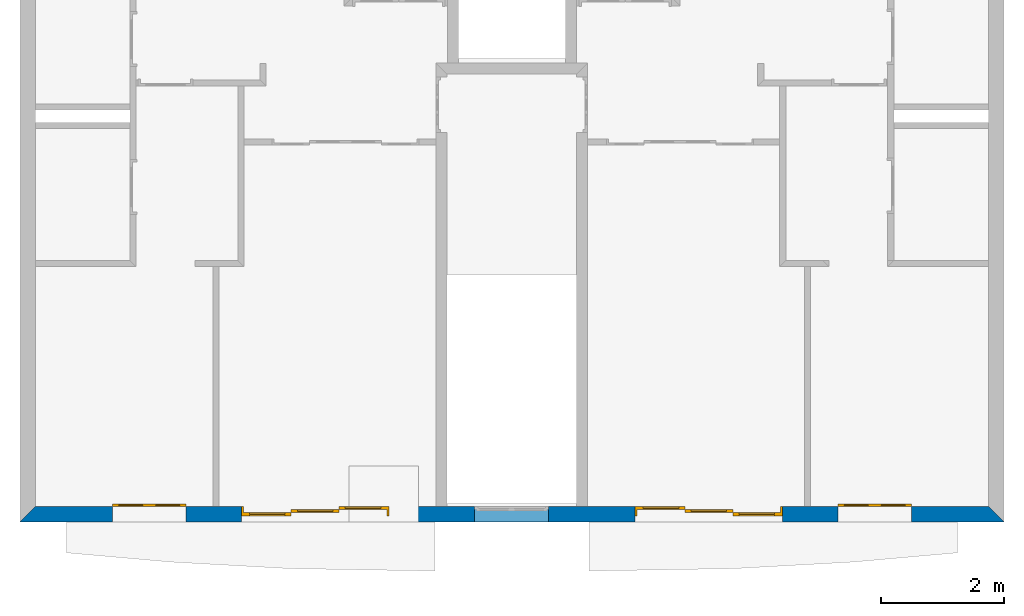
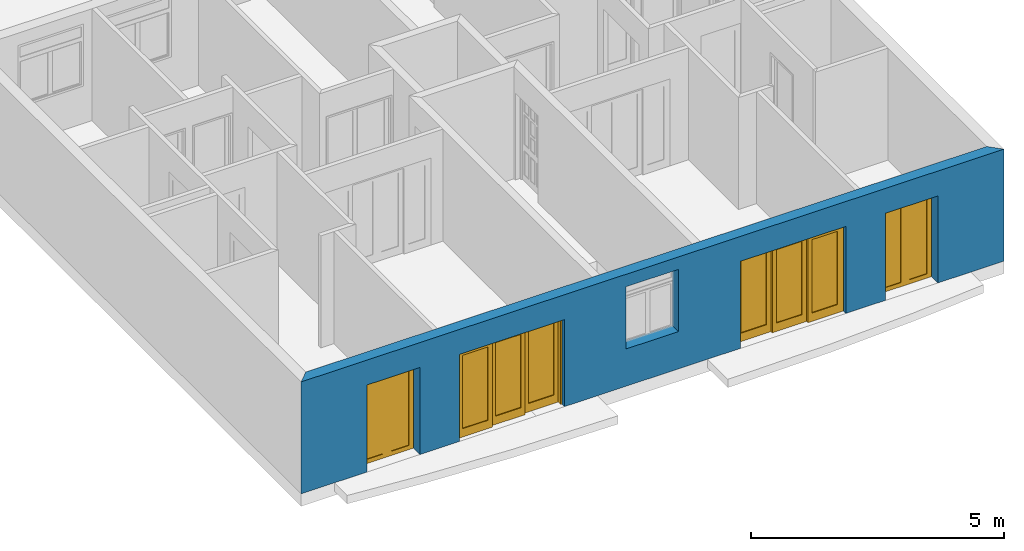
# One storey, part 2 of 12: 4 doors, 1 wall, 5 openings.
"""IFC2X3 building model written with IfcOpenShell, lengths in metres."""

from ifc_helpers import new_model, entity, si_unit, converted_unit, direction, frame, frame_2d, origin_with_axes, place, context, project, spatial, polyline, rectangle, outline, extrude, faceted_brep, source, transform, mapped, material, layer, layer_set, layer_usage, type_object, element, fill, save


model = new_model("IFC2X3")

# Units and contexts
context_of_model = context(None, 3, precision=1e-05, world=origin_with_axes(), true_north=direction((6.123234e-17, 1.0)))
plan_context = context("Plan", 3, precision=1e-05, world=origin_with_axes(), true_north=direction((6.123234e-17, 1.0)))
model_context = context("Model", 3, precision=1e-05, world=origin_with_axes(), true_north=direction((6.123234e-17, 1.0)))
ifc_project = project(units=[si_unit("LENGTHUNIT", "METRE"), si_unit("AREAUNIT", "SQUARE_METRE"), si_unit("VOLUMEUNIT", "CUBIC_METRE"), converted_unit("PLANEANGLEUNIT", "DEGREE", entity("IfcPlaneAngleMeasure", 0.017453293), si_unit("PLANEANGLEUNIT", "RADIAN"), dimensions=[0, 0, 0, 0, 0, 0, 0]), si_unit("SOLIDANGLEUNIT", "STERADIAN"), si_unit("MASSUNIT", "GRAM"), si_unit("TIMEUNIT", "SECOND"), si_unit("THERMODYNAMICTEMPERATUREUNIT", "DEGREE_CELSIUS"), si_unit("LUMINOUSINTENSITYUNIT", "LUMEN")], contexts=[context_of_model, plan_context, model_context])

# Site, building, storey
site_placement = place(None, origin_with_axes())
site = spatial("IfcSite", under=ifc_project, at=site_placement, Name="Por defecto Sitio", CompositionType="ELEMENT")
building_placement = place(site_placement, origin_with_axes())
building = spatial("IfcBuilding", under=site, at=building_placement, Name="Por defecto Edificio", CompositionType="ELEMENT")
storey_placement = place(building_placement, frame((0.0, 0.0, 4.2), z_axis=(0.0, 0.0, 1.0), x_axis=(1.0, 0.0, 0.0)))
storey = spatial("IfcBuildingStorey", under=building, at=storey_placement, Name="Primera", CompositionType="ELEMENT", Elevation=4.2)

# Wall, openings, doors
ifc_material = material(Name="Ladrillo común")
ifc_layer = layer(ifc_material, 0.25, ventilated="UNKNOWN")
ifc_layer_set = layer_set([ifc_layer], Name="Ladrillo común")
ifc_layer_usage = layer_usage(ifc_layer_set, "AXIS2", "NEGATIVE", 0.0)
wall_type = type_object("IfcWallType", Name="Ladrillo común", PredefinedType="NOTDEFINED")
wall_placement = place(storey_placement, frame((16.03417, -1.1368684e-13, 0.0), z_axis=(0.0, 0.0, 1.0), x_axis=(-1.0, 7.0902852e-15, 0.0)))
wall = element("IfcWallStandardCase", 1, at=wall_placement, inside=storey, type_object=wall_type, material=ifc_layer_usage, Name="Muro-011", context=context_of_model, shape_type="SweptSolid", body=[
    extrude(outline(polyline([(0.25, -0.25), (15.78417, -0.25), (16.03417, 0.0), (0.0, 0.0), (0.25, -0.25)])), origin_with_axes(), (0.0, 0.0, 1.0), 2.7),
])
opening_1_placement = place(wall_placement, frame((13.926599, -0.25, 0.0), z_axis=(0.0, 0.0, 1.0), x_axis=(1.0, 0.0, 0.0)))
opening_1 = element("IfcOpeningElement", 2, at=opening_1_placement, cuts=wall, ObjectType="Opening", context=model_context, shape_type="SweptSolid", body=[
    extrude(rectangle(XDim=1.2, YDim=2.1, at=frame_2d((-1.7763568e-15, 1.05), x_axis=(-1.0, 0.0))), frame((0.0, 0.0, 0.0), z_axis=(0.0, 1.0, 0.0), x_axis=(-1.0, 0.0, 0.0)), (0.0, 0.0, 1.0), 0.25),
])
opening_2_placement = place(wall_placement, frame((2.1075705, -0.25, 0.0), z_axis=(0.0, 0.0, 1.0), x_axis=(1.0, 0.0, 0.0)))
opening_2 = element("IfcOpeningElement", 3, at=opening_2_placement, cuts=wall, ObjectType="Opening", context=model_context, shape_type="SweptSolid", body=[
    extrude(rectangle(XDim=1.2, YDim=2.1, at=frame_2d((-1.7763568e-15, 1.05), x_axis=(-1.0, 0.0))), frame((0.0, 0.0, 0.0), z_axis=(0.0, 1.0, 0.0), x_axis=(-1.0, 0.0, 0.0)), (0.0, 0.0, 1.0), 0.25),
])
opening_3_placement = place(wall_placement, frame((11.225136, -0.25, 0.0), z_axis=(0.0, 0.0, 1.0), x_axis=(1.0, 0.0, 0.0)))
opening_3 = element("IfcOpeningElement", 4, at=opening_3_placement, cuts=wall, ObjectType="Opening", context=model_context, shape_type="SweptSolid", body=[
    extrude(rectangle(XDim=2.4, YDim=2.1, at=frame_2d((-1.7763568e-15, 1.05), x_axis=(-1.0, 0.0))), frame((0.0, 0.0, 0.0), z_axis=(0.0, 1.0, 0.0), x_axis=(-1.0, 0.0, 0.0)), (0.0, 0.0, 1.0), 0.25),
])
opening_4_placement = place(wall_placement, frame((4.8090341, -0.25, 0.0), z_axis=(0.0, 0.0, 1.0), x_axis=(1.0, 0.0, 0.0)))
opening_4 = element("IfcOpeningElement", 5, at=opening_4_placement, cuts=wall, ObjectType="Opening", context=model_context, shape_type="SweptSolid", body=[
    extrude(rectangle(XDim=2.4, YDim=2.1, at=frame_2d((-1.7763568e-15, 1.05), x_axis=(-1.0, 0.0))), frame((0.0, 0.0, 0.0), z_axis=(0.0, 1.0, 0.0), x_axis=(-1.0, 0.0, 0.0)), (0.0, 0.0, 1.0), 0.25),
])
opening_5_placement = place(wall_placement, frame((8.0241698, -0.25, 0.9), z_axis=(0.0, 0.0, 1.0), x_axis=(1.0, 0.0, 0.0)))
element("IfcOpeningElement", 6, at=opening_5_placement, cuts=wall, ObjectType="Opening", context=model_context, shape_type="SweptSolid", body=[
    extrude(rectangle(XDim=1.2, YDim=1.5, at=frame_2d((-1.7763568e-15, 0.75), x_axis=(-1.0, 0.0))), frame((0.0, 0.0, 0.0), z_axis=(0.0, 1.0, 0.0), x_axis=(-1.0, 0.0, 0.0)), (0.0, 0.0, 1.0), 0.25),
])
door_style_1 = type_object("IfcDoorStyle", Name="P2 Corredera Ext 12", ConstructionType="NOTDEFINED", OperationType="DOUBLE_DOOR_SLIDING", ParameterTakesPrecedence=False, Sizeable=False)
shared_shape_1 = source(origin_with_axes(), model_context, "Body", "Brep", [
    faceted_brep([(-2.4424907e-15, 0.045, 0.1), (0.1, 0.045, 0.1), (0.1, 0.005, 0.1), (-2.220446e-15, 0.005, 0.1), (-2.4424907e-15, 0.045, 2.0), (0.1, 0.045, 2.0), (0.1, 0.005, 2.0), (-2.220446e-15, 0.005, 2.0)], [[[0, 1, 2, 3]], [[0, 4, 5, 1]], [[1, 5, 6, 2]], [[3, 2, 6, 7]], [[4, 0, 3, 7]], [[5, 4, 7, 6]]]),
    faceted_brep([(0.6, 0.045, 0.1), (0.6, 0.045, 2.0), (0.6, 0.005, 2.0), (0.6, 0.005, 0.1), (0.5, 0.045, 0.1), (0.5, 0.045, 2.0), (0.5, 0.005, 2.0), (0.5, 0.005, 0.1)], [[[0, 1, 2, 3]], [[0, 4, 5, 1]], [[1, 5, 6, 2]], [[3, 2, 6, 7]], [[4, 0, 3, 7]], [[5, 4, 7, 6]]]),
    faceted_brep([(-2.4424907e-15, 0.045, 0.0), (0.6, 0.045, 0.0), (0.6, 0.005, 0.0), (-2.220446e-15, 0.005, 0.0), (-2.4424907e-15, 0.045, 0.1), (0.1, 0.045, 0.1), (0.5, 0.045, 0.1), (0.6, 0.045, 0.1), (0.6, 0.005, 0.1), (0.5, 0.005, 0.1), (0.1, 0.005, 0.1), (-2.220446e-15, 0.005, 0.1)], [[[0, 1, 2, 3]], [[0, 4, 5, 6, 7, 1]], [[1, 7, 8, 2]], [[3, 2, 8, 9, 10, 11]], [[4, 0, 3, 11]], [[5, 4, 11, 10]], [[6, 5, 10, 9]], [[7, 6, 9, 8]]]),
    faceted_brep([(-2.4424907e-15, 0.045, 2.1), (-2.4424907e-15, 0.045, 2.0), (-2.220446e-15, 0.005, 2.0), (-2.220446e-15, 0.005, 2.1), (0.6, 0.045, 2.1), (0.6, 0.045, 2.0), (0.5, 0.045, 2.0), (0.1, 0.045, 2.0), (0.1, 0.005, 2.0), (0.5, 0.005, 2.0), (0.6, 0.005, 2.0), (0.6, 0.005, 2.1)], [[[0, 1, 2, 3]], [[0, 4, 5, 6, 7, 1]], [[1, 7, 8, 2]], [[3, 2, 8, 9, 10, 11]], [[4, 0, 3, 11]], [[5, 4, 11, 10]], [[6, 5, 10, 9]], [[7, 6, 9, 8]]]),
    faceted_brep([(0.1, 0.031, 0.1), (0.5, 0.031, 0.1), (0.5, 0.019, 0.1), (0.1, 0.019, 0.1), (0.1, 0.031, 2.0), (0.5, 0.031, 2.0), (0.5, 0.019, 2.0), (0.1, 0.019, 2.0)], [[[0, 1, 2, 3]], [[0, 4, 5, 1]], [[1, 5, 6, 2]], [[3, 2, 6, 7]], [[4, 0, 3, 7]], [[5, 4, 7, 6]]]),
    faceted_brep([(1.2, 0.045, 0.1), (1.2, 0.005, 0.1), (1.1, 0.005, 0.1), (1.1, 0.045, 0.1), (1.2, 0.045, 2.0), (1.2, 0.005, 2.0), (1.1, 0.005, 2.0), (1.1, 0.045, 2.0)], [[[0, 1, 2, 3]], [[4, 5, 1, 0]], [[1, 5, 6, 2]], [[3, 2, 6, 7]], [[0, 3, 7, 4]], [[7, 6, 5, 4]]]),
    faceted_brep([(0.6, 0.045, 0.1), (0.6, 0.005, 0.1), (0.6, 0.005, 2.0), (0.6, 0.045, 2.0), (0.7, 0.045, 0.1), (0.7, 0.005, 0.1), (0.7, 0.005, 2.0), (0.7, 0.045, 2.0)], [[[0, 1, 2, 3]], [[4, 5, 1, 0]], [[1, 5, 6, 2]], [[3, 2, 6, 7]], [[0, 3, 7, 4]], [[7, 6, 5, 4]]]),
    faceted_brep([(1.2, 0.045, 0.0), (1.2, 0.005, 0.0), (0.6, 0.005, 0.0), (0.6, 0.045, 0.0), (1.2, 0.045, 0.1), (1.2, 0.005, 0.1), (1.1, 0.005, 0.1), (0.7, 0.005, 0.1), (0.6, 0.005, 0.1), (0.6, 0.045, 0.1), (0.7, 0.045, 0.1), (1.1, 0.045, 0.1)], [[[0, 1, 2, 3]], [[4, 5, 1, 0]], [[1, 5, 6, 7, 8, 2]], [[3, 2, 8, 9]], [[0, 3, 9, 10, 11, 4]], [[11, 6, 5, 4]], [[10, 7, 6, 11]], [[9, 8, 7, 10]]]),
    faceted_brep([(1.2, 0.045, 2.1), (1.2, 0.005, 2.1), (1.2, 0.005, 2.0), (1.2, 0.045, 2.0), (0.6, 0.045, 2.1), (0.6, 0.005, 2.1), (0.6, 0.005, 2.0), (0.7, 0.005, 2.0), (1.1, 0.005, 2.0), (1.1, 0.045, 2.0), (0.7, 0.045, 2.0), (0.6, 0.045, 2.0)], [[[0, 1, 2, 3]], [[4, 5, 1, 0]], [[1, 5, 6, 7, 8, 2]], [[3, 2, 8, 9]], [[0, 3, 9, 10, 11, 4]], [[11, 6, 5, 4]], [[10, 7, 6, 11]], [[9, 8, 7, 10]]]),
    faceted_brep([(1.1, 0.031, 0.1), (1.1, 0.019, 0.1), (0.7, 0.019, 0.1), (0.7, 0.031, 0.1), (1.1, 0.031, 2.0), (1.1, 0.019, 2.0), (0.7, 0.019, 2.0), (0.7, 0.031, 2.0)], [[[0, 1, 2, 3]], [[4, 5, 1, 0]], [[1, 5, 6, 2]], [[3, 2, 6, 7]], [[0, 3, 7, 4]], [[7, 6, 5, 4]]]),
])
door_1_placement = place(opening_1_placement, frame((0.6, 0.0, 0.0), z_axis=(0.0, 0.0, 1.0), x_axis=(-1.0, 0.0, 0.0)))
door_1 = element("IfcDoor", 7, at=door_1_placement, inside=storey, type_object=door_style_1, Name="P29", OverallHeight=2.1, OverallWidth=1.2, context=model_context, shape_type="MappedRepresentation", body=[
    mapped(shared_shape_1, transform((0.0, 0.0, 0.0), scale=1.0)),
])
fill(opening_1, door_1)
door_style_2 = type_object("IfcDoorStyle", Name="P2 Corredera Ext 12", ConstructionType="NOTDEFINED", OperationType="DOUBLE_DOOR_SLIDING", ParameterTakesPrecedence=False, Sizeable=False)
door_2_placement = place(opening_2_placement, frame((0.6, 0.0, 0.0), z_axis=(0.0, 0.0, 1.0), x_axis=(-1.0, 0.0, 0.0)))
door_2 = element("IfcDoor", 8, at=door_2_placement, inside=storey, type_object=door_style_2, Name="P30", OverallHeight=2.1, OverallWidth=1.2, context=model_context, shape_type="MappedRepresentation", body=[
    mapped(shared_shape_1, transform((0.0, 0.0, 0.0), scale=1.0)),
])
fill(opening_2, door_2)
door_style_3 = type_object("IfcDoorStyle", Name="P3 Corredera 12", ConstructionType="NOTDEFINED", OperationType="SLIDING_TO_RIGHT", ParameterTakesPrecedence=False, Sizeable=False)
shared_shape_2 = source(origin_with_axes(), model_context, "Body", "Brep", [
    faceted_brep([(0.03, 0.15, 0.0), (0.03, 0.15, 2.07), (0.03, -8.6333718e-14, 2.07), (0.03, -8.6222696e-14, 0.0), (-1.7763568e-15, 0.15, 0.0), (-1.7763568e-15, 0.15, 2.07), (-8.8817842e-16, -8.6541885e-14, 2.07), (0.0, 0.0, 0.0)], [[[0, 1, 2, 3]], [[0, 4, 5, 1]], [[1, 5, 6, 2]], [[3, 2, 6, 7]], [[4, 0, 3, 7]], [[5, 4, 7, 6]]]),
    faceted_brep([(2.4, 0.15, 0.0), (2.4, 0.15, 2.07), (2.4, -7.0110584e-14, 2.07), (2.4, -6.9999562e-14, 0.0), (2.37, 0.15, 0.0), (2.37, 0.15, 2.07), (2.37, -7.0318751e-14, 2.07), (2.37, -7.0179973e-14, 0.0)], [[[0, 1, 2, 3]], [[0, 4, 5, 1]], [[1, 5, 6, 2]], [[3, 2, 6, 7]], [[4, 0, 3, 7]], [[5, 4, 7, 6]]]),
    faceted_brep([(-1.7763568e-15, 0.15, 2.1), (-1.7763568e-15, 0.15, 2.07), (-8.8817842e-16, -8.6541885e-14, 2.07), (-8.8817842e-16, -8.6541885e-14, 2.1), (2.4, 0.15, 2.1), (2.4, 0.15, 2.07), (2.37, 0.15, 2.07), (0.03, 0.15, 2.07), (0.03, -8.6333718e-14, 2.07), (2.37, -7.0318751e-14, 2.07), (2.4, -7.0110584e-14, 2.07), (2.4, -7.0110584e-14, 2.1)], [[[0, 1, 2, 3]], [[0, 4, 5, 6, 7, 1]], [[1, 7, 8, 2]], [[3, 2, 8, 9, 10, 11]], [[4, 0, 3, 11]], [[5, 4, 11, 10]], [[6, 5, 10, 9]], [[7, 6, 9, 8]]]),
    faceted_brep([(2.37, 0.15, 0.2), (2.37, 0.1, 0.2), (2.27, 0.1, 0.2), (2.27, 0.15, 0.2), (2.37, 0.15, 1.97), (2.37, 0.1, 1.97), (2.27, 0.1, 1.97), (2.27, 0.15, 1.97)], [[[0, 1, 2, 3]], [[4, 5, 1, 0]], [[1, 5, 6, 2]], [[3, 2, 6, 7]], [[0, 3, 7, 4]], [[7, 6, 5, 4]]]),
    faceted_brep([(1.59, 0.15, 0.2), (1.59, 0.1, 0.2), (1.59, 0.1, 1.97), (1.59, 0.15, 1.97), (1.69, 0.15, 0.2), (1.69, 0.1, 0.2), (1.69, 0.1, 1.97), (1.69, 0.15, 1.97)], [[[0, 1, 2, 3]], [[4, 5, 1, 0]], [[1, 5, 6, 2]], [[3, 2, 6, 7]], [[0, 3, 7, 4]], [[7, 6, 5, 4]]]),
    faceted_brep([(2.37, 0.15, 0.0), (2.37, 0.1, 0.0), (1.59, 0.1, 0.0), (1.59, 0.15, 0.0), (2.37, 0.15, 0.2), (2.37, 0.1, 0.2), (2.27, 0.1, 0.2), (1.69, 0.1, 0.2), (1.59, 0.1, 0.2), (1.59, 0.15, 0.2), (1.69, 0.15, 0.2), (2.27, 0.15, 0.2)], [[[0, 1, 2, 3]], [[4, 5, 1, 0]], [[1, 5, 6, 7, 8, 2]], [[3, 2, 8, 9]], [[0, 3, 9, 10, 11, 4]], [[11, 6, 5, 4]], [[10, 7, 6, 11]], [[9, 8, 7, 10]]]),
    faceted_brep([(2.37, 0.15, 2.07), (2.37, 0.1, 2.07), (2.37, 0.1, 1.97), (2.37, 0.15, 1.97), (1.59, 0.15, 2.07), (1.59, 0.1, 2.07), (1.59, 0.1, 1.97), (1.69, 0.1, 1.97), (2.27, 0.1, 1.97), (2.27, 0.15, 1.97), (1.69, 0.15, 1.97), (1.59, 0.15, 1.97)], [[[0, 1, 2, 3]], [[4, 5, 1, 0]], [[1, 5, 6, 7, 8, 2]], [[3, 2, 8, 9]], [[0, 3, 9, 10, 11, 4]], [[11, 6, 5, 4]], [[10, 7, 6, 11]], [[9, 8, 7, 10]]]),
    faceted_brep([(2.27, 0.131, 0.2), (2.27, 0.119, 0.2), (1.69, 0.119, 0.2), (1.69, 0.131, 0.2), (2.27, 0.131, 1.97), (2.27, 0.119, 1.97), (1.69, 0.119, 1.97), (1.69, 0.131, 1.97)], [[[0, 1, 2, 3]], [[4, 5, 1, 0]], [[1, 5, 6, 2]], [[3, 2, 6, 7]], [[0, 3, 7, 4]], [[7, 6, 5, 4]]]),
    faceted_brep([(1.59, 0.1, 0.2), (1.59, 0.05, 0.2), (1.49, 0.05, 0.2), (1.49, 0.1, 0.2), (1.59, 0.1, 1.97), (1.59, 0.05, 1.97), (1.49, 0.05, 1.97), (1.49, 0.1, 1.97)], [[[0, 1, 2, 3]], [[4, 5, 1, 0]], [[1, 5, 6, 2]], [[3, 2, 6, 7]], [[0, 3, 7, 4]], [[7, 6, 5, 4]]]),
    faceted_brep([(0.81, 0.1, 0.2), (0.81, 0.05, 0.2), (0.81, 0.05, 1.97), (0.81, 0.1, 1.97), (0.91, 0.1, 0.2), (0.91, 0.05, 0.2), (0.91, 0.05, 1.97), (0.91, 0.1, 1.97)], [[[0, 1, 2, 3]], [[4, 5, 1, 0]], [[1, 5, 6, 2]], [[3, 2, 6, 7]], [[0, 3, 7, 4]], [[7, 6, 5, 4]]]),
    faceted_brep([(1.59, 0.1, 0.0), (1.59, 0.05, 0.0), (0.81, 0.05, 0.0), (0.81, 0.1, 0.0), (1.59, 0.1, 0.2), (1.59, 0.05, 0.2), (1.49, 0.05, 0.2), (0.91, 0.05, 0.2), (0.81, 0.05, 0.2), (0.81, 0.1, 0.2), (0.91, 0.1, 0.2), (1.49, 0.1, 0.2)], [[[0, 1, 2, 3]], [[4, 5, 1, 0]], [[1, 5, 6, 7, 8, 2]], [[3, 2, 8, 9]], [[0, 3, 9, 10, 11, 4]], [[11, 6, 5, 4]], [[10, 7, 6, 11]], [[9, 8, 7, 10]]]),
    faceted_brep([(1.59, 0.1, 2.07), (1.59, 0.05, 2.07), (1.59, 0.05, 1.97), (1.59, 0.1, 1.97), (0.81, 0.1, 2.07), (0.81, 0.05, 2.07), (0.81, 0.05, 1.97), (0.91, 0.05, 1.97), (1.49, 0.05, 1.97), (1.49, 0.1, 1.97), (0.91, 0.1, 1.97), (0.81, 0.1, 1.97)], [[[0, 1, 2, 3]], [[4, 5, 1, 0]], [[1, 5, 6, 7, 8, 2]], [[3, 2, 8, 9]], [[0, 3, 9, 10, 11, 4]], [[11, 6, 5, 4]], [[10, 7, 6, 11]], [[9, 8, 7, 10]]]),
    faceted_brep([(1.49, 0.081, 0.2), (1.49, 0.069, 0.2), (0.91, 0.069, 0.2), (0.91, 0.081, 0.2), (1.49, 0.081, 1.97), (1.49, 0.069, 1.97), (0.91, 0.069, 1.97), (0.91, 0.081, 1.97)], [[[0, 1, 2, 3]], [[4, 5, 1, 0]], [[1, 5, 6, 2]], [[3, 2, 6, 7]], [[0, 3, 7, 4]], [[7, 6, 5, 4]]]),
    faceted_brep([(0.81, 0.05, 0.2), (0.81, -8.0907503e-14, 0.2), (0.71, -8.1587515e-14, 0.2), (0.71, 0.05, 0.2), (0.81, 0.05, 1.97), (0.81, -8.1129548e-14, 1.97), (0.71, -8.1809559e-14, 1.97), (0.71, 0.05, 1.97)], [[[0, 1, 2, 3]], [[4, 5, 1, 0]], [[1, 5, 6, 2]], [[3, 2, 6, 7]], [[0, 3, 7, 4]], [[7, 6, 5, 4]]]),
    faceted_brep([(0.03, 0.05, 0.2), (0.03, -8.6250451e-14, 0.2), (0.03, -8.6472496e-14, 1.97), (0.03, 0.05, 1.97), (0.13, 0.05, 0.2), (0.13, -8.557044e-14, 0.2), (0.13, -8.5792484e-14, 1.97), (0.13, 0.05, 1.97)], [[[0, 1, 2, 3]], [[4, 5, 1, 0]], [[1, 5, 6, 2]], [[3, 2, 6, 7]], [[0, 3, 7, 4]], [[7, 6, 5, 4]]]),
    faceted_brep([(0.81, 0.05, 0.0), (0.81, -8.0907503e-14, 0.0), (0.03, -8.6250451e-14, 0.0), (0.03, 0.05, 0.0), (0.81, 0.05, 0.2), (0.81, -8.0907503e-14, 0.2), (0.71, -8.1587515e-14, 0.2), (0.13, -8.557044e-14, 0.2), (0.03, -8.6250451e-14, 0.2), (0.03, 0.05, 0.2), (0.13, 0.05, 0.2), (0.71, 0.05, 0.2)], [[[0, 1, 2, 3]], [[4, 5, 1, 0]], [[1, 5, 6, 7, 8, 2]], [[3, 2, 8, 9]], [[0, 3, 9, 10, 11, 4]], [[11, 6, 5, 4]], [[10, 7, 6, 11]], [[9, 8, 7, 10]]]),
    faceted_brep([(0.81, 0.05, 2.07), (0.81, -8.1129548e-14, 2.07), (0.81, -8.1129548e-14, 1.97), (0.81, 0.05, 1.97), (0.03, 0.05, 2.07), (0.03, -8.6472496e-14, 2.07), (0.03, -8.6472496e-14, 1.97), (0.13, -8.5792484e-14, 1.97), (0.71, -8.1809559e-14, 1.97), (0.71, 0.05, 1.97), (0.13, 0.05, 1.97), (0.03, 0.05, 1.97)], [[[0, 1, 2, 3]], [[4, 5, 1, 0]], [[1, 5, 6, 7, 8, 2]], [[3, 2, 8, 9]], [[0, 3, 9, 10, 11, 4]], [[11, 6, 5, 4]], [[10, 7, 6, 11]], [[9, 8, 7, 10]]]),
    faceted_brep([(0.71, 0.031, 0.2), (0.71, 0.019, 0.2), (0.13, 0.019, 0.2), (0.13, 0.031, 0.2), (0.71, 0.031, 1.97), (0.71, 0.019, 1.97), (0.13, 0.019, 1.97), (0.13, 0.031, 1.97)], [[[0, 1, 2, 3]], [[4, 5, 1, 0]], [[1, 5, 6, 2]], [[3, 2, 6, 7]], [[0, 3, 7, 4]], [[7, 6, 5, 4]]]),
])
door_3_placement = place(opening_3_placement, frame((1.2, 0.15, 0.0), z_axis=(0.0, 0.0, 1.0), x_axis=(-1.0, 0.0, 0.0)))
door_3 = element("IfcDoor", 9, at=door_3_placement, inside=storey, type_object=door_style_3, Name="P26", OverallHeight=2.1, OverallWidth=2.4, context=model_context, shape_type="MappedRepresentation", body=[
    mapped(shared_shape_2, transform((0.0, 0.0, 0.0), scale=1.0)),
])
fill(opening_3, door_3)
door_style_4 = type_object("IfcDoorStyle", Name="P3 Corredera 12", ConstructionType="NOTDEFINED", OperationType="SLIDING_TO_LEFT", ParameterTakesPrecedence=False, Sizeable=False)
shared_shape_3 = source(origin_with_axes(), model_context, "Body", "Brep", [
    faceted_brep([(2.37, 0.15, 0.0), (2.37, -2.5493496e-14, 0.0), (2.37, -2.5632274e-14, 2.07), (2.37, 0.15, 2.07), (2.4, 0.15, 0.0), (2.4, -2.5313085e-14, 0.0), (2.4, -2.5424107e-14, 2.07), (2.4, 0.15, 2.07)], [[[0, 1, 2, 3]], [[4, 5, 1, 0]], [[1, 5, 6, 2]], [[3, 2, 6, 7]], [[0, 3, 7, 4]], [[7, 6, 5, 4]]]),
    faceted_brep([(-1.7763568e-15, 0.15, 0.0), (0.0, 0.0, 0.0), (0.0, -4.1855408e-14, 2.07), (-1.7763568e-15, 0.15, 2.07), (0.03, 0.15, 0.0), (0.03, -4.1536219e-14, 0.0), (0.03, -4.1647241e-14, 2.07), (0.03, 0.15, 2.07)], [[[0, 1, 2, 3]], [[4, 5, 1, 0]], [[1, 5, 6, 2]], [[3, 2, 6, 7]], [[0, 3, 7, 4]], [[7, 6, 5, 4]]]),
    faceted_brep([(2.4, 0.15, 2.1), (2.4, -2.5424107e-14, 2.1), (2.4, -2.5424107e-14, 2.07), (2.4, 0.15, 2.07), (-1.7763568e-15, 0.15, 2.1), (0.0, -4.1855408e-14, 2.1), (0.0, -4.1855408e-14, 2.07), (0.03, -4.1647241e-14, 2.07), (2.37, -2.5632274e-14, 2.07), (2.37, 0.15, 2.07), (0.03, 0.15, 2.07), (-1.7763568e-15, 0.15, 2.07)], [[[0, 1, 2, 3]], [[4, 5, 1, 0]], [[1, 5, 6, 7, 8, 2]], [[3, 2, 8, 9]], [[0, 3, 9, 10, 11, 4]], [[11, 6, 5, 4]], [[10, 7, 6, 11]], [[9, 8, 7, 10]]]),
    faceted_brep([(0.03, 0.15, 0.2), (0.13, 0.15, 0.2), (0.13, 0.1, 0.2), (0.03, 0.1, 0.2), (0.03, 0.15, 1.97), (0.13, 0.15, 1.97), (0.13, 0.1, 1.97), (0.03, 0.1, 1.97)], [[[0, 1, 2, 3]], [[0, 4, 5, 1]], [[1, 5, 6, 2]], [[3, 2, 6, 7]], [[4, 0, 3, 7]], [[5, 4, 7, 6]]]),
    faceted_brep([(0.81, 0.15, 0.2), (0.81, 0.15, 1.97), (0.81, 0.1, 1.97), (0.81, 0.1, 0.2), (0.71, 0.15, 0.2), (0.71, 0.15, 1.97), (0.71, 0.1, 1.97), (0.71, 0.1, 0.2)], [[[0, 1, 2, 3]], [[0, 4, 5, 1]], [[1, 5, 6, 2]], [[3, 2, 6, 7]], [[4, 0, 3, 7]], [[5, 4, 7, 6]]]),
    faceted_brep([(0.03, 0.15, 0.0), (0.81, 0.15, 0.0), (0.81, 0.1, 0.0), (0.03, 0.1, 0.0), (0.03, 0.15, 0.2), (0.13, 0.15, 0.2), (0.71, 0.15, 0.2), (0.81, 0.15, 0.2), (0.81, 0.1, 0.2), (0.71, 0.1, 0.2), (0.13, 0.1, 0.2), (0.03, 0.1, 0.2)], [[[0, 1, 2, 3]], [[0, 4, 5, 6, 7, 1]], [[1, 7, 8, 2]], [[3, 2, 8, 9, 10, 11]], [[4, 0, 3, 11]], [[5, 4, 11, 10]], [[6, 5, 10, 9]], [[7, 6, 9, 8]]]),
    faceted_brep([(0.03, 0.15, 2.07), (0.03, 0.15, 1.97), (0.03, 0.1, 1.97), (0.03, 0.1, 2.07), (0.81, 0.15, 2.07), (0.81, 0.15, 1.97), (0.71, 0.15, 1.97), (0.13, 0.15, 1.97), (0.13, 0.1, 1.97), (0.71, 0.1, 1.97), (0.81, 0.1, 1.97), (0.81, 0.1, 2.07)], [[[0, 1, 2, 3]], [[0, 4, 5, 6, 7, 1]], [[1, 7, 8, 2]], [[3, 2, 8, 9, 10, 11]], [[4, 0, 3, 11]], [[5, 4, 11, 10]], [[6, 5, 10, 9]], [[7, 6, 9, 8]]]),
    faceted_brep([(0.13, 0.131, 0.2), (0.71, 0.131, 0.2), (0.71, 0.119, 0.2), (0.13, 0.119, 0.2), (0.13, 0.131, 1.97), (0.71, 0.131, 1.97), (0.71, 0.119, 1.97), (0.13, 0.119, 1.97)], [[[0, 1, 2, 3]], [[0, 4, 5, 1]], [[1, 5, 6, 2]], [[3, 2, 6, 7]], [[4, 0, 3, 7]], [[5, 4, 7, 6]]]),
    faceted_brep([(0.81, 0.1, 0.2), (0.91, 0.1, 0.2), (0.91, 0.05, 0.2), (0.81, 0.05, 0.2), (0.81, 0.1, 1.97), (0.91, 0.1, 1.97), (0.91, 0.05, 1.97), (0.81, 0.05, 1.97)], [[[0, 1, 2, 3]], [[0, 4, 5, 1]], [[1, 5, 6, 2]], [[3, 2, 6, 7]], [[4, 0, 3, 7]], [[5, 4, 7, 6]]]),
    faceted_brep([(1.59, 0.1, 0.2), (1.59, 0.1, 1.97), (1.59, 0.05, 1.97), (1.59, 0.05, 0.2), (1.49, 0.1, 0.2), (1.49, 0.1, 1.97), (1.49, 0.05, 1.97), (1.49, 0.05, 0.2)], [[[0, 1, 2, 3]], [[0, 4, 5, 1]], [[1, 5, 6, 2]], [[3, 2, 6, 7]], [[4, 0, 3, 7]], [[5, 4, 7, 6]]]),
    faceted_brep([(0.81, 0.1, 0.0), (1.59, 0.1, 0.0), (1.59, 0.05, 0.0), (0.81, 0.05, 0.0), (0.81, 0.1, 0.2), (0.91, 0.1, 0.2), (1.49, 0.1, 0.2), (1.59, 0.1, 0.2), (1.59, 0.05, 0.2), (1.49, 0.05, 0.2), (0.91, 0.05, 0.2), (0.81, 0.05, 0.2)], [[[0, 1, 2, 3]], [[0, 4, 5, 6, 7, 1]], [[1, 7, 8, 2]], [[3, 2, 8, 9, 10, 11]], [[4, 0, 3, 11]], [[5, 4, 11, 10]], [[6, 5, 10, 9]], [[7, 6, 9, 8]]]),
    faceted_brep([(0.81, 0.1, 2.07), (0.81, 0.1, 1.97), (0.81, 0.05, 1.97), (0.81, 0.05, 2.07), (1.59, 0.1, 2.07), (1.59, 0.1, 1.97), (1.49, 0.1, 1.97), (0.91, 0.1, 1.97), (0.91, 0.05, 1.97), (1.49, 0.05, 1.97), (1.59, 0.05, 1.97), (1.59, 0.05, 2.07)], [[[0, 1, 2, 3]], [[0, 4, 5, 6, 7, 1]], [[1, 7, 8, 2]], [[3, 2, 8, 9, 10, 11]], [[4, 0, 3, 11]], [[5, 4, 11, 10]], [[6, 5, 10, 9]], [[7, 6, 9, 8]]]),
    faceted_brep([(0.91, 0.081, 0.2), (1.49, 0.081, 0.2), (1.49, 0.069, 0.2), (0.91, 0.069, 0.2), (0.91, 0.081, 1.97), (1.49, 0.081, 1.97), (1.49, 0.069, 1.97), (0.91, 0.069, 1.97)], [[[0, 1, 2, 3]], [[0, 4, 5, 1]], [[1, 5, 6, 2]], [[3, 2, 6, 7]], [[4, 0, 3, 7]], [[5, 4, 7, 6]]]),
    faceted_brep([(1.59, 0.05, 0.2), (1.69, 0.05, 0.2), (1.69, -3.0211944e-14, 0.2), (1.59, -3.0891956e-14, 0.2), (1.59, 0.05, 1.97), (1.69, 0.05, 1.97), (1.69, -3.0433989e-14, 1.97), (1.59, -3.1114e-14, 1.97)], [[[0, 1, 2, 3]], [[0, 4, 5, 1]], [[1, 5, 6, 2]], [[3, 2, 6, 7]], [[4, 0, 3, 7]], [[5, 4, 7, 6]]]),
    faceted_brep([(2.37, 0.05, 0.2), (2.37, 0.05, 1.97), (2.37, -2.5771052e-14, 1.97), (2.37, -2.5549007e-14, 0.2), (2.27, 0.05, 0.2), (2.27, 0.05, 1.97), (2.27, -2.6451064e-14, 1.97), (2.27, -2.6229019e-14, 0.2)], [[[0, 1, 2, 3]], [[0, 4, 5, 1]], [[1, 5, 6, 2]], [[3, 2, 6, 7]], [[4, 0, 3, 7]], [[5, 4, 7, 6]]]),
    faceted_brep([(1.59, 0.05, 0.0), (2.37, 0.05, 0.0), (2.37, -2.5521252e-14, 0.0), (1.59, -3.08642e-14, 0.0), (1.59, 0.05, 0.2), (1.69, 0.05, 0.2), (2.27, 0.05, 0.2), (2.37, 0.05, 0.2), (2.37, -2.5549007e-14, 0.2), (2.27, -2.6229019e-14, 0.2), (1.69, -3.0211944e-14, 0.2), (1.59, -3.0891956e-14, 0.2)], [[[0, 1, 2, 3]], [[0, 4, 5, 6, 7, 1]], [[1, 7, 8, 2]], [[3, 2, 8, 9, 10, 11]], [[4, 0, 3, 11]], [[5, 4, 11, 10]], [[6, 5, 10, 9]], [[7, 6, 9, 8]]]),
    faceted_brep([(1.59, 0.05, 2.07), (1.59, 0.05, 1.97), (1.59, -3.1114e-14, 1.97), (1.59, -3.1114e-14, 2.07), (2.37, 0.05, 2.07), (2.37, 0.05, 1.97), (2.27, 0.05, 1.97), (1.69, 0.05, 1.97), (1.69, -3.0433989e-14, 1.97), (2.27, -2.6451064e-14, 1.97), (2.37, -2.5771052e-14, 1.97), (2.37, -2.5771052e-14, 2.07)], [[[0, 1, 2, 3]], [[0, 4, 5, 6, 7, 1]], [[1, 7, 8, 2]], [[3, 2, 8, 9, 10, 11]], [[4, 0, 3, 11]], [[5, 4, 11, 10]], [[6, 5, 10, 9]], [[7, 6, 9, 8]]]),
    faceted_brep([(1.69, 0.031, 0.2), (2.27, 0.031, 0.2), (2.27, 0.019, 0.2), (1.69, 0.019, 0.2), (1.69, 0.031, 1.97), (2.27, 0.031, 1.97), (2.27, 0.019, 1.97), (1.69, 0.019, 1.97)], [[[0, 1, 2, 3]], [[0, 4, 5, 1]], [[1, 5, 6, 2]], [[3, 2, 6, 7]], [[4, 0, 3, 7]], [[5, 4, 7, 6]]]),
])
door_4_placement = place(opening_4_placement, frame((1.2, 0.15, 0.0), z_axis=(0.0, 0.0, 1.0), x_axis=(-1.0, 0.0, 0.0)))
door_4 = element("IfcDoor", 10, at=door_4_placement, inside=storey, type_object=door_style_4, Name="P27", OverallHeight=2.1, OverallWidth=2.4, context=model_context, shape_type="MappedRepresentation", body=[
    mapped(shared_shape_3, transform((0.0, 0.0, 0.0), scale=1.0)),
])
fill(opening_4, door_4)

save(model, "model.ifc")
